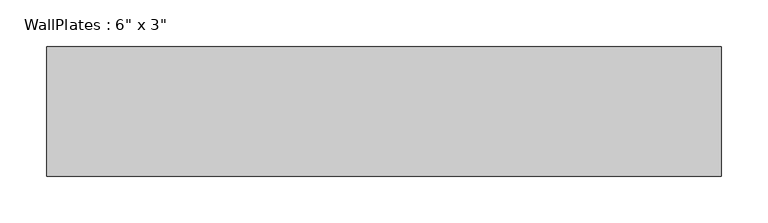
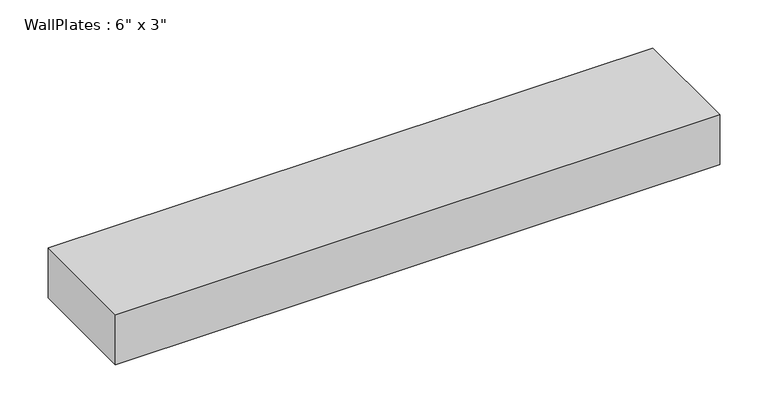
"""IFC4 building model written with IfcOpenShell, lengths in millimetres: beam geometry."""

from ifc_helpers import new_model, si_unit, frame, origin, place, context, project, spatial, polyline, outline, extrude, source, transform, mapped, element, save


def beam_74c60bf1(model_context):
    return source(origin(), model_context, "Body", "SweptSolid", [
        extrude(outline(polyline([(-362.7966667, -69.85), (-362.7966667, 69.85), (362.7966667, 69.85), (362.7966667, -69.85), (-362.7966667, -69.85)])), frame((0.0, 0.0, -31.75), z_axis=(0.0, 0.0, 1.0), x_axis=(1.0, 0.0, 0.0)), (0.0, 0.0, 1.0), 63.5),
    ])


if __name__ == "__main__":
    model = new_model("IFC4")
    model_context = context("Model", 3, world=origin())
    ifc_project = project(units=[si_unit("LENGTHUNIT", "METRE", prefix="MILLI")], contexts=[model_context])
    site = spatial("IfcSite", under=ifc_project)
    building = spatial("IfcBuilding", under=site)
    placement = place(None, origin())
    beam_shape = beam_74c60bf1(model_context)
    element("IfcBeam", 1, ObjectType="WallPlates : 6\" x 3\"", at=placement, inside=building, context=model_context, shape_type="MappedRepresentation", body=[
        mapped(beam_shape, transform((0.0, 0.0, 0.0), x_axis=(1.0, 0.0, 0.0), y_axis=(0.0, 1.0, 0.0), z_axis=(0.0, 0.0, 1.0))),
    ])
    save(model, "model.ifc")
